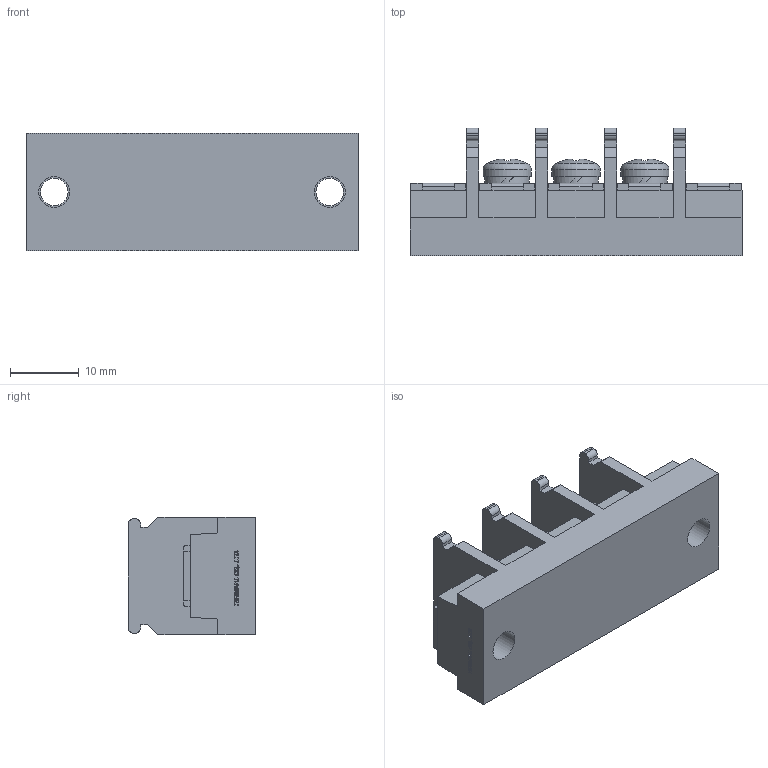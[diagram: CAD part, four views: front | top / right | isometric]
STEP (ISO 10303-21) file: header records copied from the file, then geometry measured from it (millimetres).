
FILE_DESCRIPTION(/* description */ ('Alibre Inc.'),/* implementation_level */ '2;1');
FILE_NAME(/* name */ 'export0',/* time_stamp */ '2015-10-14T19:45:17+09:00',/* author */ (''),/* organization */ (''),/* preprocessor_version */ 'ST-DEVELOPER v14',/* originating_system */ 'Alibre',/* authorisation */ '');
FILE_SCHEMA (('CONFIG_CONTROL_DESIGN'));
Length unit declared in the file: centimetre
Products named in the file (1): ID_1
Bounding box: 48.2 x 18.5 x 17 mm (x, y, z)
Volume: 8356.8 mm3; surface area: 5064.5 mm2
Topology: 1 solids, 17 shells, 630 faces, 1689 edges, 1123 vertices
Faces by surface type: plane 466, bspline 104, cylinder 39, cone 12, torus 6, sphere 3
Full cylindrical faces by diameter (mm): 4 x5, 4.5 x2, 6.5 x3, 7 x3
Entity records: 19062 total; most frequent: CARTESIAN_POINT 4427, ORIENTED_EDGE 3328, DIRECTION 2172, EDGE_CURVE 1664, VECTOR 1266, LINE 1266, VERTEX_POINT 1114, EDGE_LOOP 694
